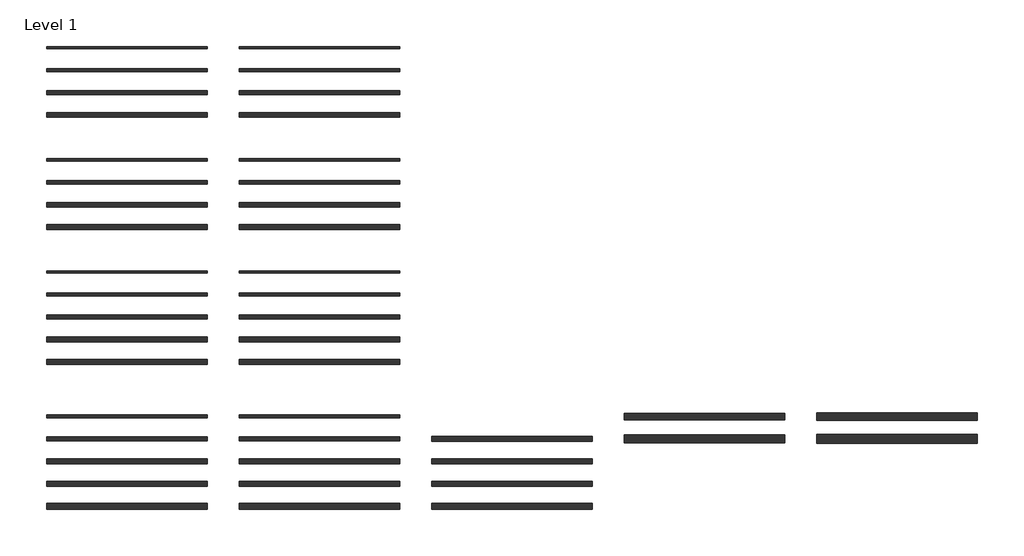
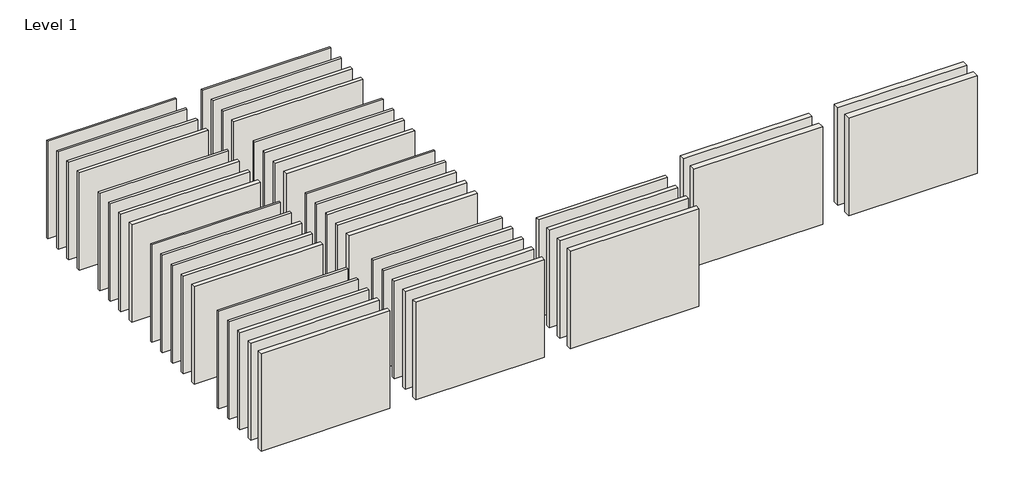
# One storey: 44 walls.
"""IFC4 building model written with IfcOpenShell, lengths in millimetres."""

from ifc_helpers import new_model, si_unit, origin, origin_with_axes, place, context, project, spatial, polyline, outline, extrude, element, save

model = new_model("IFC4")

# Units and contexts
model_context = context("Model", 3, world=origin())
ifc_project = project(units=[si_unit("LENGTHUNIT", "METRE", prefix="MILLI")], contexts=[model_context])

# Site, building, storey
site = spatial("IfcSite", under=ifc_project)
building = spatial("IfcBuilding", under=site)
storey = spatial("IfcBuildingStorey", under=building, Name="Level 1", Elevation=0.0)

# Walls
placement = place(None, origin())
element("IfcWall", 1, ObjectType="Knauf Danogips E F 450 45/45 -/AA M0", at=placement, inside=storey, context=model_context, shape_type="SweptSolid", body=[
    extrude(outline(polyline([(-12781.2795625, 11679.3559755), (-17781.2795625, 11679.3559755), (-17781.2795625, 11749.3559755), (-12781.2795625, 11749.3559755), (-12781.2795625, 11679.3559755)])), origin_with_axes(), (0.0, 0.0, 1.0), 4000.0),
])
element("IfcWall", 2, ObjectType="Knauf Danogips E F 450 70/70 -/AA M0", at=placement, inside=storey, context=model_context, shape_type="SweptSolid", body=[
    extrude(outline(polyline([(-12781.2795625, 10966.8559755), (-17781.2795625, 10966.8559755), (-17781.2795625, 11061.8559755), (-12781.2795625, 11061.8559755), (-12781.2795625, 10966.8559755)])), origin_with_axes(), (0.0, 0.0, 1.0), 4000.0),
])
element("IfcWall", 3, ObjectType="Knauf Danogips E F 450 95/95 -/AA M0", at=placement, inside=storey, context=model_context, shape_type="SweptSolid", body=[
    extrude(outline(polyline([(-12781.2795625, 10254.3559755), (-17781.2795625, 10254.3559755), (-17781.2795625, 10374.3559755), (-12781.2795625, 10374.3559755), (-12781.2795625, 10254.3559755)])), origin_with_axes(), (0.0, 0.0, 1.0), 4000.0),
])
element("IfcWall", 4, ObjectType="Knauf Danogips E F 450 120/120 -/AA M0", at=placement, inside=storey, context=model_context, shape_type="SweptSolid", body=[
    extrude(outline(polyline([(-12781.2795625, 9541.8559755), (-17781.2795625, 9541.8559755), (-17781.2795625, 9686.8559755), (-12781.2795625, 9686.8559755), (-12781.2795625, 9541.8559755)])), origin_with_axes(), (0.0, 0.0, 1.0), 4000.0),
])
element("IfcWall", 5, ObjectType="Knauf Danogips E F 450 45/45 -/AAA M0", at=placement, inside=storey, context=model_context, shape_type="SweptSolid", body=[
    extrude(outline(polyline([(-12781.2795625, 8173.1059755), (-17781.2795625, 8173.1059755), (-17781.2795625, 8255.6059755), (-12781.2795625, 8255.6059755), (-12781.2795625, 8173.1059755)])), origin_with_axes(), (0.0, 0.0, 1.0), 4000.0),
])
element("IfcWall", 6, ObjectType="Knauf Danogips E F 450 70/70 -/AAA M0", at=placement, inside=storey, context=model_context, shape_type="SweptSolid", body=[
    extrude(outline(polyline([(-12781.2795625, 7460.6059755), (-17781.2795625, 7460.6059755), (-17781.2795625, 7568.1059755), (-12781.2795625, 7568.1059755), (-12781.2795625, 7460.6059755)])), origin_with_axes(), (0.0, 0.0, 1.0), 4000.0),
])
element("IfcWall", 7, ObjectType="Knauf Danogips E F 450 95/95 -/AAA M0", at=placement, inside=storey, context=model_context, shape_type="SweptSolid", body=[
    extrude(outline(polyline([(-12781.2795625, 6748.1059755), (-17781.2795625, 6748.1059755), (-17781.2795625, 6880.6059755), (-12781.2795625, 6880.6059755), (-12781.2795625, 6748.1059755)])), origin_with_axes(), (0.0, 0.0, 1.0), 4000.0),
])
element("IfcWall", 8, ObjectType="Knauf Danogips E F 450 120/120 -/AAA M0", at=placement, inside=storey, context=model_context, shape_type="SweptSolid", body=[
    extrude(outline(polyline([(-12781.2795625, 6035.6059755), (-17781.2795625, 6035.6059755), (-17781.2795625, 6193.1059755), (-12781.2795625, 6193.1059755), (-12781.2795625, 6035.6059755)])), origin_with_axes(), (0.0, 0.0, 1.0), 4000.0),
])
element("IfcWall", 9, ObjectType="Knauf Danogips E F 450 45/45 A/A M0", at=placement, inside=storey, context=model_context, shape_type="SweptSolid", body=[
    extrude(outline(polyline([(-12781.2795625, 4679.3559755), (-17781.2795625, 4679.3559755), (-17781.2795625, 4749.3559755), (-12781.2795625, 4749.3559755), (-12781.2795625, 4679.3559755)])), origin_with_axes(), (0.0, 0.0, 1.0), 4000.0),
])
element("IfcWall", 10, ObjectType="Knauf Danogips E F 450 70/70 A/A M0", at=placement, inside=storey, context=model_context, shape_type="SweptSolid", body=[
    extrude(outline(polyline([(-12781.2795625, 3966.8559755), (-17781.2795625, 3966.8559755), (-17781.2795625, 4061.8559755), (-12781.2795625, 4061.8559755), (-12781.2795625, 3966.8559755)])), origin_with_axes(), (0.0, 0.0, 1.0), 4000.0),
])
element("IfcWall", 11, ObjectType="Knauf Danogips E F 450 95/95 A/A M0", at=placement, inside=storey, context=model_context, shape_type="SweptSolid", body=[
    extrude(outline(polyline([(-12781.2795625, 3254.3559755), (-17781.2795625, 3254.3559755), (-17781.2795625, 3374.3559755), (-12781.2795625, 3374.3559755), (-12781.2795625, 3254.3559755)])), origin_with_axes(), (0.0, 0.0, 1.0), 4000.0),
])
element("IfcWall", 12, ObjectType="Knauf Danogips E F 450 120/120 A/A M0", at=placement, inside=storey, context=model_context, shape_type="SweptSolid", body=[
    extrude(outline(polyline([(-12781.2795625, 2541.8559755), (-17781.2795625, 2541.8559755), (-17781.2795625, 2686.8559755), (-12781.2795625, 2686.8559755), (-12781.2795625, 2541.8559755)])), origin_with_axes(), (0.0, 0.0, 1.0), 4000.0),
])
element("IfcWall", 13, ObjectType="Knauf Danogips E F 450 145/145 A/A M0", at=placement, inside=storey, context=model_context, shape_type="SweptSolid", body=[
    extrude(outline(polyline([(-12781.2795625, 1829.3559755), (-17781.2795625, 1829.3559755), (-17781.2795625, 1999.3559755), (-12781.2795625, 1999.3559755), (-12781.2795625, 1829.3559755)])), origin_with_axes(), (0.0, 0.0, 1.0), 4000.0),
])
element("IfcWall", 14, ObjectType="Knauf Danogips E F 450 45/45 -/AA M45", at=placement, inside=storey, context=model_context, shape_type="SweptSolid", body=[
    extrude(outline(polyline([(-6781.2795625, 11679.3559755), (-11781.2795625, 11679.3559755), (-11781.2795625, 11749.3559755), (-6781.2795625, 11749.3559755), (-6781.2795625, 11679.3559755)])), origin_with_axes(), (0.0, 0.0, 1.0), 4000.0),
])
element("IfcWall", 15, ObjectType="Knauf Danogips E F 450 70/70 -/AA M45", at=placement, inside=storey, context=model_context, shape_type="SweptSolid", body=[
    extrude(outline(polyline([(-6781.2795625, 10966.8559755), (-11781.2795625, 10966.8559755), (-11781.2795625, 11061.8559755), (-6781.2795625, 11061.8559755), (-6781.2795625, 10966.8559755)])), origin_with_axes(), (0.0, 0.0, 1.0), 4000.0),
])
element("IfcWall", 16, ObjectType="Knauf Danogips E F 450 95/95 -/AA M45", at=placement, inside=storey, context=model_context, shape_type="SweptSolid", body=[
    extrude(outline(polyline([(-6781.2795625, 10254.3559755), (-11781.2795625, 10254.3559755), (-11781.2795625, 10374.3559755), (-6781.2795625, 10374.3559755), (-6781.2795625, 10254.3559755)])), origin_with_axes(), (0.0, 0.0, 1.0), 4000.0),
])
element("IfcWall", 17, ObjectType="Knauf Danogips E F 450 120/120 -/AA M45", at=placement, inside=storey, context=model_context, shape_type="SweptSolid", body=[
    extrude(outline(polyline([(-6781.2795625, 9541.8559755), (-11781.2795625, 9541.8559755), (-11781.2795625, 9686.8559755), (-6781.2795625, 9686.8559755), (-6781.2795625, 9541.8559755)])), origin_with_axes(), (0.0, 0.0, 1.0), 4000.0),
])
element("IfcWall", 18, ObjectType="Knauf Danogips E F 450 45/45 -/AAA M45", at=placement, inside=storey, context=model_context, shape_type="SweptSolid", body=[
    extrude(outline(polyline([(-6781.2795625, 8173.1059755), (-11781.2795625, 8173.1059755), (-11781.2795625, 8255.6059755), (-6781.2795625, 8255.6059755), (-6781.2795625, 8173.1059755)])), origin_with_axes(), (0.0, 0.0, 1.0), 4000.0),
])
element("IfcWall", 19, ObjectType="Knauf Danogips E F 450 70/70 -/AAA M45", at=placement, inside=storey, context=model_context, shape_type="SweptSolid", body=[
    extrude(outline(polyline([(-6781.2795625, 7460.6059755), (-11781.2795625, 7460.6059755), (-11781.2795625, 7568.1059755), (-6781.2795625, 7568.1059755), (-6781.2795625, 7460.6059755)])), origin_with_axes(), (0.0, 0.0, 1.0), 4000.0),
])
element("IfcWall", 20, ObjectType="Knauf Danogips E F 450 95/95 -/AAA M45", at=placement, inside=storey, context=model_context, shape_type="SweptSolid", body=[
    extrude(outline(polyline([(-6781.2795625, 6748.1059755), (-11781.2795625, 6748.1059755), (-11781.2795625, 6880.6059755), (-6781.2795625, 6880.6059755), (-6781.2795625, 6748.1059755)])), origin_with_axes(), (0.0, 0.0, 1.0), 4000.0),
])
element("IfcWall", 21, ObjectType="Knauf Danogips E F 450 120/120 -/AAA M45", at=placement, inside=storey, context=model_context, shape_type="SweptSolid", body=[
    extrude(outline(polyline([(-6781.2795625, 6035.6059755), (-11781.2795625, 6035.6059755), (-11781.2795625, 6193.1059755), (-6781.2795625, 6193.1059755), (-6781.2795625, 6035.6059755)])), origin_with_axes(), (0.0, 0.0, 1.0), 4000.0),
])
element("IfcWall", 22, ObjectType="Knauf Danogips E F 450 45/45 A/A M45", at=placement, inside=storey, context=model_context, shape_type="SweptSolid", body=[
    extrude(outline(polyline([(-6781.2795625, 4679.3559755), (-11781.2795625, 4679.3559755), (-11781.2795625, 4749.3559755), (-6781.2795625, 4749.3559755), (-6781.2795625, 4679.3559755)])), origin_with_axes(), (0.0, 0.0, 1.0), 4000.0),
])
element("IfcWall", 23, ObjectType="Knauf Danogips E F 450 70/70 A/A M45", at=placement, inside=storey, context=model_context, shape_type="SweptSolid", body=[
    extrude(outline(polyline([(-6781.2795625, 3966.8559755), (-11781.2795625, 3966.8559755), (-11781.2795625, 4061.8559755), (-6781.2795625, 4061.8559755), (-6781.2795625, 3966.8559755)])), origin_with_axes(), (0.0, 0.0, 1.0), 4000.0),
])
element("IfcWall", 24, ObjectType="Knauf Danogips E F 450 95/95 A/A M45", at=placement, inside=storey, context=model_context, shape_type="SweptSolid", body=[
    extrude(outline(polyline([(-6781.2795625, 3254.3559755), (-11781.2795625, 3254.3559755), (-11781.2795625, 3374.3559755), (-6781.2795625, 3374.3559755), (-6781.2795625, 3254.3559755)])), origin_with_axes(), (0.0, 0.0, 1.0), 4000.0),
])
element("IfcWall", 25, ObjectType="Knauf Danogips E F 450 120/120 A/A M45", at=placement, inside=storey, context=model_context, shape_type="SweptSolid", body=[
    extrude(outline(polyline([(-6781.2795625, 2541.8559755), (-11781.2795625, 2541.8559755), (-11781.2795625, 2686.8559755), (-6781.2795625, 2686.8559755), (-6781.2795625, 2541.8559755)])), origin_with_axes(), (0.0, 0.0, 1.0), 4000.0),
])
element("IfcWall", 26, ObjectType="Knauf Danogips E F 450 145/145 A/A M45", at=placement, inside=storey, context=model_context, shape_type="SweptSolid", body=[
    extrude(outline(polyline([(-6781.2795625, 1829.3559755), (-11781.2795625, 1829.3559755), (-11781.2795625, 1999.3559755), (-6781.2795625, 1999.3559755), (-6781.2795625, 1829.3559755)])), origin_with_axes(), (0.0, 0.0, 1.0), 4000.0),
])
element("IfcWall", 27, ObjectType="Knauf Danogips E F 450 45/45 AA/AA M0", at=placement, inside=storey, context=model_context, shape_type="SweptSolid", body=[
    extrude(outline(polyline([(-12781.2795625, 166.8559755), (-17781.2795625, 166.8559755), (-17781.2795625, 261.8559755), (-12781.2795625, 261.8559755), (-12781.2795625, 166.8559755)])), origin_with_axes(), (0.0, 0.0, 1.0), 4000.0),
])
element("IfcWall", 28, ObjectType="Knauf Danogips E F 450 70/70 AA/AA M0", at=placement, inside=storey, context=model_context, shape_type="SweptSolid", body=[
    extrude(outline(polyline([(-12781.2795625, -545.6440245), (-17781.2795625, -545.6440245), (-17781.2795625, -425.6440245), (-12781.2795625, -425.6440245), (-12781.2795625, -545.6440245)])), origin_with_axes(), (0.0, 0.0, 1.0), 4000.0),
])
element("IfcWall", 29, ObjectType="Knauf Danogips E F 450 95/95 AA/AA M0", at=placement, inside=storey, context=model_context, shape_type="SweptSolid", body=[
    extrude(outline(polyline([(-12781.2795625, -1258.1440245), (-17781.2795625, -1258.1440245), (-17781.2795625, -1113.1440245), (-12781.2795625, -1113.1440245), (-12781.2795625, -1258.1440245)])), origin_with_axes(), (0.0, 0.0, 1.0), 4000.0),
])
element("IfcWall", 30, ObjectType="Knauf Danogips E F 450 120/120 AA/AA M0", at=placement, inside=storey, context=model_context, shape_type="SweptSolid", body=[
    extrude(outline(polyline([(-12781.2795625, -1970.6440245), (-17781.2795625, -1970.6440245), (-17781.2795625, -1800.6440245), (-12781.2795625, -1800.6440245), (-12781.2795625, -1970.6440245)])), origin_with_axes(), (0.0, 0.0, 1.0), 4000.0),
])
element("IfcWall", 31, ObjectType="Knauf Danogips E F 450 145/145 AA/AA M0", at=placement, inside=storey, context=model_context, shape_type="SweptSolid", body=[
    extrude(outline(polyline([(-12781.2795625, -2683.1440245), (-17781.2795625, -2683.1440245), (-17781.2795625, -2488.1440245), (-12781.2795625, -2488.1440245), (-12781.2795625, -2683.1440245)])), origin_with_axes(), (0.0, 0.0, 1.0), 4000.0),
])
element("IfcWall", 32, ObjectType="Knauf Danogips E F 450 45/45 AA/AA M45", at=placement, inside=storey, context=model_context, shape_type="SweptSolid", body=[
    extrude(outline(polyline([(-6781.2795625, 166.8559755), (-11781.2795625, 166.8559755), (-11781.2795625, 261.8559755), (-6781.2795625, 261.8559755), (-6781.2795625, 166.8559755)])), origin_with_axes(), (0.0, 0.0, 1.0), 4000.0),
])
element("IfcWall", 33, ObjectType="Knauf Danogips E F 450 70/70 AA/AA M45", at=placement, inside=storey, context=model_context, shape_type="SweptSolid", body=[
    extrude(outline(polyline([(-6781.2795625, -545.6440245), (-11781.2795625, -545.6440245), (-11781.2795625, -425.6440245), (-6781.2795625, -425.6440245), (-6781.2795625, -545.6440245)])), origin_with_axes(), (0.0, 0.0, 1.0), 4000.0),
])
element("IfcWall", 34, ObjectType="Knauf Danogips E F 450 95/95 AA/AA M45", at=placement, inside=storey, context=model_context, shape_type="SweptSolid", body=[
    extrude(outline(polyline([(-6781.2795625, -1258.1440245), (-11781.2795625, -1258.1440245), (-11781.2795625, -1113.1440245), (-6781.2795625, -1113.1440245), (-6781.2795625, -1258.1440245)])), origin_with_axes(), (0.0, 0.0, 1.0), 4000.0),
])
element("IfcWall", 35, ObjectType="Knauf Danogips E F 450 120/120 AA/AA M45", at=placement, inside=storey, context=model_context, shape_type="SweptSolid", body=[
    extrude(outline(polyline([(-6781.2795625, -1970.6440245), (-11781.2795625, -1970.6440245), (-11781.2795625, -1800.6440245), (-6781.2795625, -1800.6440245), (-6781.2795625, -1970.6440245)])), origin_with_axes(), (0.0, 0.0, 1.0), 4000.0),
])
element("IfcWall", 36, ObjectType="Knauf Danogips E F 450 145/145 AA/AA M45", at=placement, inside=storey, context=model_context, shape_type="SweptSolid", body=[
    extrude(outline(polyline([(-6781.2795625, -2683.1440245), (-11781.2795625, -2683.1440245), (-11781.2795625, -2488.1440245), (-6781.2795625, -2488.1440245), (-6781.2795625, -2683.1440245)])), origin_with_axes(), (0.0, 0.0, 1.0), 4000.0),
])
element("IfcWall", 37, ObjectType="Knauf Danogips Z F 450 95/70 AA/AA M90", at=placement, inside=storey, context=model_context, shape_type="SweptSolid", body=[
    extrude(outline(polyline([(-781.2795625, -558.1440245), (-5781.2795625, -558.1440245), (-5781.2795625, -413.1440245), (-781.2795625, -413.1440245), (-781.2795625, -558.1440245)])), origin_with_axes(), (0.0, 0.0, 1.0), 4000.0),
])
element("IfcWall", 38, ObjectType="Knauf Danogips Z F 450 120/95 AA/AA M90", at=placement, inside=storey, context=model_context, shape_type="SweptSolid", body=[
    extrude(outline(polyline([(-781.2795625, -1270.6440245), (-5781.2795625, -1270.6440245), (-5781.2795625, -1100.6440245), (-781.2795625, -1100.6440245), (-781.2795625, -1270.6440245)])), origin_with_axes(), (0.0, 0.0, 1.0), 4000.0),
])
element("IfcWall", 39, ObjectType="Knauf Danogips Z F 450 120/70 AA/AA M90", at=placement, inside=storey, context=model_context, shape_type="SweptSolid", body=[
    extrude(outline(polyline([(-781.2795625, -1970.6440245), (-5781.2795625, -1970.6440245), (-5781.2795625, -1800.6440245), (-781.2795625, -1800.6440245), (-781.2795625, -1970.6440245)])), origin_with_axes(), (0.0, 0.0, 1.0), 4000.0),
])
element("IfcWall", 40, ObjectType="Knauf Danogips Z F 450 145/95 AA/AA M90", at=placement, inside=storey, context=model_context, shape_type="SweptSolid", body=[
    extrude(outline(polyline([(-781.2795625, -2683.1440245), (-5781.2795625, -2683.1440245), (-5781.2795625, -2488.1440245), (-781.2795625, -2488.1440245), (-781.2795625, -2683.1440245)])), origin_with_axes(), (0.0, 0.0, 1.0), 4000.0),
])
element("IfcWall", 41, ObjectType="Knauf Danogips D F 450 70/70 AA/AA M140", at=placement, inside=storey, context=model_context, shape_type="SweptSolid", body=[
    extrude(outline(polyline([(5218.7204375, 111.8559755), (218.7204375, 111.8559755), (218.7204375, 316.8559755), (5218.7204375, 316.8559755), (5218.7204375, 111.8559755)])), origin_with_axes(), (0.0, 0.0, 1.0), 4000.0),
])
element("IfcWall", 42, ObjectType="Knauf Danogips D F 450 95/95 AA/AA M190", at=placement, inside=storey, context=model_context, shape_type="SweptSolid", body=[
    extrude(outline(polyline([(5218.7204375, -613.1440245), (218.7204375, -613.1440245), (218.7204375, -358.1440245), (5218.7204375, -358.1440245), (5218.7204375, -613.1440245)])), origin_with_axes(), (0.0, 0.0, 1.0), 4000.0),
])
element("IfcWall", 43, ObjectType="Knauf Danogips D F 450 70/70 AAA/AAA M140", at=placement, inside=storey, context=model_context, shape_type="SweptSolid", body=[
    extrude(outline(polyline([(11218.7204375, 99.3559755), (6218.7204375, 99.3559755), (6218.7204375, 329.3559755), (11218.7204375, 329.3559755), (11218.7204375, 99.3559755)])), origin_with_axes(), (0.0, 0.0, 1.0), 4000.0),
])
element("IfcWall", 44, ObjectType="Knauf Danogips D F 450 95/95 AAA/AAA M190", at=placement, inside=storey, context=model_context, shape_type="SweptSolid", body=[
    extrude(outline(polyline([(11218.7204375, -625.6553342), (6218.7204375, -625.6553342), (6218.7204375, -345.6553342), (11218.7204375, -345.6553342), (11218.7204375, -625.6553342)])), origin_with_axes(), (0.0, 0.0, 1.0), 4000.0),
])

save(model, "model.ifc")
